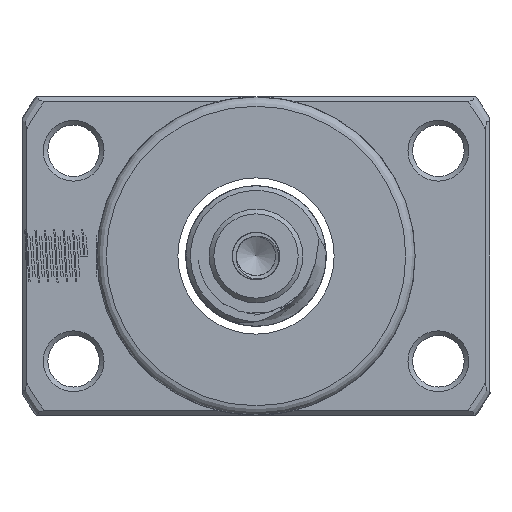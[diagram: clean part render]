
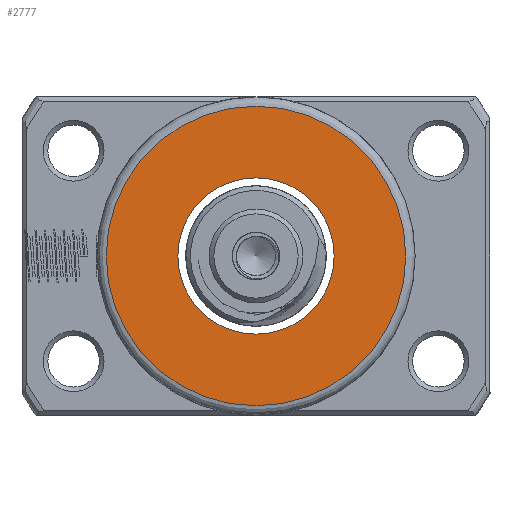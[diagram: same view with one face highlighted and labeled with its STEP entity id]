
A CAD part, left-side view. The second image highlights one B-rep face of the part: STEP entity #2777.
In plain terms, the highlighted planar face has unit normal (-1, 0, 0).
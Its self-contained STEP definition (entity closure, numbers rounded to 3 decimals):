
#408 = AXIS2_PLACEMENT_3D ( 'NONE', #1933, #5516, #5397 ) ;
#1458 = DIRECTION ( 'NONE',  ( 0., 0., 1. ) ) ;
#1933 = CARTESIAN_POINT ( 'NONE',  ( -53.324, 0., 0. ) ) ;
#2777 = ADVANCED_FACE ( 'NONE', ( #15916, #12088 ), #10112, .T. ) ;
#2802 = VERTEX_POINT ( 'NONE', #17997 ) ;
#3891 = CARTESIAN_POINT ( 'NONE',  ( -53.324, 0., 0. ) ) ;
#4778 = VERTEX_POINT ( 'NONE', #12316 ) ;
#5397 = DIRECTION ( 'NONE',  ( 0., 0., 1. ) ) ;
#5516 = DIRECTION ( 'NONE',  ( -1., 0., 0. ) ) ;
#7512 = CIRCLE ( 'NONE', #408, 16. ) ;
#8185 = EDGE_LOOP ( 'NONE', ( #17969 ) ) ;
#8259 = CARTESIAN_POINT ( 'NONE',  ( -53.324, 8.35, 0. ) ) ;
#8386 = DIRECTION ( 'NONE',  ( 0., 0., 1. ) ) ;
#9231 = DIRECTION ( 'NONE',  ( -1., 0., 0. ) ) ;
#10112 = PLANE ( 'NONE',  #22212 ) ;
#11259 = EDGE_CURVE ( 'NONE', #2802, #2802, #7512, .T. ) ;
#11715 = EDGE_CURVE ( 'NONE', #4778, #4778, #24090, .T. ) ;
#12088 = FACE_BOUND ( 'NONE', #8185, .T. ) ;
#12316 = CARTESIAN_POINT ( 'NONE',  ( -53.324, 0., 8.35 ) ) ;
#13687 = DIRECTION ( 'NONE',  ( -1., 0., 0. ) ) ;
#15916 = FACE_OUTER_BOUND ( 'NONE', #20410, .T. ) ;
#17967 = ORIENTED_EDGE ( 'NONE', *, *, #11259, .T. ) ;
#17969 = ORIENTED_EDGE ( 'NONE', *, *, #11715, .F. ) ;
#17997 = CARTESIAN_POINT ( 'NONE',  ( -53.324, 0., 16. ) ) ;
#20410 = EDGE_LOOP ( 'NONE', ( #17967 ) ) ;
#22212 = AXIS2_PLACEMENT_3D ( 'NONE', #8259, #13687, #8386 ) ;
#23693 = AXIS2_PLACEMENT_3D ( 'NONE', #3891, #9231, #1458 ) ;
#24090 = CIRCLE ( 'NONE', #23693, 8.35 ) ;
